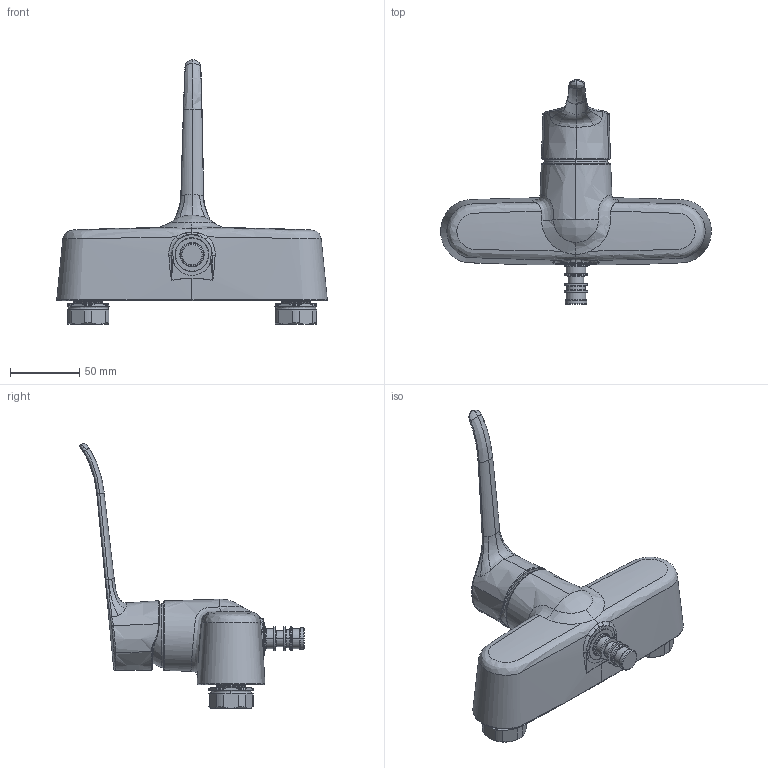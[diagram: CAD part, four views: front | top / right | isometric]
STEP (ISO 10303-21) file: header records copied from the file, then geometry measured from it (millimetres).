
FILE_DESCRIPTION (( 'STEP AP203' ), '1' );
FILE_NAME ('5680Z(2023).STEP', '2024-02-06T04:47:23', ( '' ), ( '' ), 'SwSTEP 2.0', 'SolidWorks 2016', '' );
FILE_SCHEMA (( 'CONFIG_CONTROL_DESIGN' ));
Length unit declared in the file: millimetre
Products named in the file (1): 5680Z(2023)
Bounding box: 195.48 x 162.13 x 191.15 mm (x, y, z)
Volume: 585933.9 mm3; surface area: 59263.2 mm2
Topology: 1 solids, 1 shells, 314 faces, 773 edges, 477 vertices
Faces by surface type: bspline 138, plane 67, cylinder 54, cone 53, sphere 2
Entity records: 25395 total; most frequent: CARTESIAN_POINT 19055, ORIENTED_EDGE 1546, DIRECTION 969, EDGE_CURVE 773, VERTEX_POINT 477, AXIS2_PLACEMENT_3D 401, B_SPLINE_CURVE_WITH_KNOTS 348, EDGE_LOOP 330
